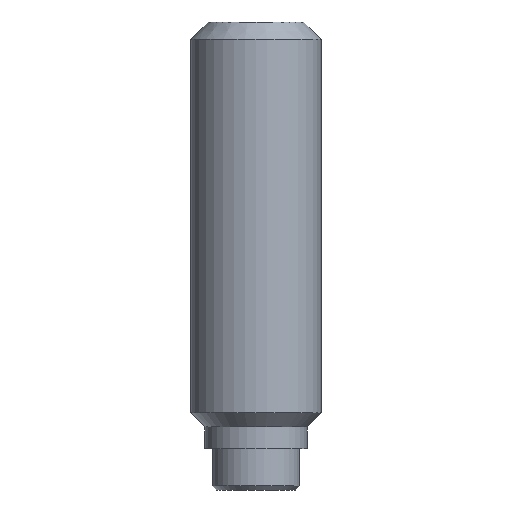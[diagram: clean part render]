
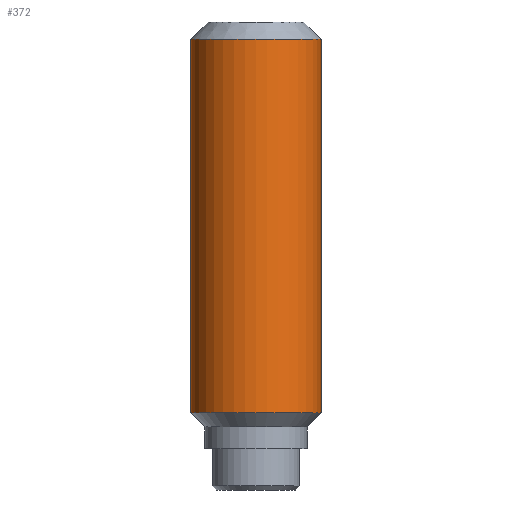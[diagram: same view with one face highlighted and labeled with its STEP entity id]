
A CAD part, front view. The second image highlights one B-rep face of the part: STEP entity #372.
In plain terms, the highlighted cylindrical face has radius 3 mm (diameter 6 mm), a partial arc.
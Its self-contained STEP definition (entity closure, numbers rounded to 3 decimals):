
#29 = DIRECTION ( 'NONE',  ( -1., 0., 0. ) ) ;
#43 = EDGE_CURVE ( 'NONE', #650, #249, #555, .T. ) ;
#52 = AXIS2_PLACEMENT_3D ( 'NONE', #387, #176, #280 ) ;
#86 = VECTOR ( 'NONE', #541, 1000. ) ;
#105 = ORIENTED_EDGE ( 'NONE', *, *, #418, .F. ) ;
#152 = LINE ( 'NONE', #657, #521 ) ;
#162 = ORIENTED_EDGE ( 'NONE', *, *, #43, .T. ) ;
#176 = DIRECTION ( 'NONE',  ( 0., 0., -1. ) ) ;
#198 = DIRECTION ( 'NONE',  ( 0., 0., -1. ) ) ;
#212 = DIRECTION ( 'NONE',  ( -1., 0., 0. ) ) ;
#249 = VERTEX_POINT ( 'NONE', #452 ) ;
#257 = ORIENTED_EDGE ( 'NONE', *, *, #531, .T. ) ;
#280 = DIRECTION ( 'NONE',  ( 1., 0., 0. ) ) ;
#301 = AXIS2_PLACEMENT_3D ( 'NONE', #464, #460, #212 ) ;
#305 = CYLINDRICAL_SURFACE ( 'NONE', #301, 3. ) ;
#311 = CIRCLE ( 'NONE', #592, 3. ) ;
#343 = DIRECTION ( 'NONE',  ( 0., 0., -1. ) ) ;
#348 = CARTESIAN_POINT ( 'NONE',  ( -3., 0., 3.55 ) ) ;
#372 = ADVANCED_FACE ( 'NONE', ( #564 ), #305, .T. ) ;
#387 = CARTESIAN_POINT ( 'NONE',  ( 0., 0., 20.7 ) ) ;
#415 = CARTESIAN_POINT ( 'NONE',  ( 0., 0., 3.55 ) ) ;
#418 = EDGE_CURVE ( 'NONE', #581, #553, #311, .T. ) ;
#431 = LINE ( 'NONE', #578, #86 ) ;
#452 = CARTESIAN_POINT ( 'NONE',  ( -3., 0., 20.7 ) ) ;
#456 = ORIENTED_EDGE ( 'NONE', *, *, #628, .F. ) ;
#460 = DIRECTION ( 'NONE',  ( 0., 0., -1. ) ) ;
#464 = CARTESIAN_POINT ( 'NONE',  ( 0., 0., 1.9 ) ) ;
#471 = CARTESIAN_POINT ( 'NONE',  ( 3., 0., 3.55 ) ) ;
#492 = CARTESIAN_POINT ( 'NONE',  ( 3., 0., 20.7 ) ) ;
#521 = VECTOR ( 'NONE', #198, 1000. ) ;
#531 = EDGE_CURVE ( 'NONE', #249, #553, #152, .T. ) ;
#541 = DIRECTION ( 'NONE',  ( 0., 0., -1. ) ) ;
#553 = VERTEX_POINT ( 'NONE', #348 ) ;
#555 = CIRCLE ( 'NONE', #52, 3. ) ;
#564 = FACE_OUTER_BOUND ( 'NONE', #574, .T. ) ;
#574 = EDGE_LOOP ( 'NONE', ( #456, #162, #257, #105 ) ) ;
#578 = CARTESIAN_POINT ( 'NONE',  ( 3., 0., 1.9 ) ) ;
#581 = VERTEX_POINT ( 'NONE', #471 ) ;
#592 = AXIS2_PLACEMENT_3D ( 'NONE', #415, #343, #29 ) ;
#628 = EDGE_CURVE ( 'NONE', #650, #581, #431, .T. ) ;
#650 = VERTEX_POINT ( 'NONE', #492 ) ;
#657 = CARTESIAN_POINT ( 'NONE',  ( -3., 0., 1.9 ) ) ;
